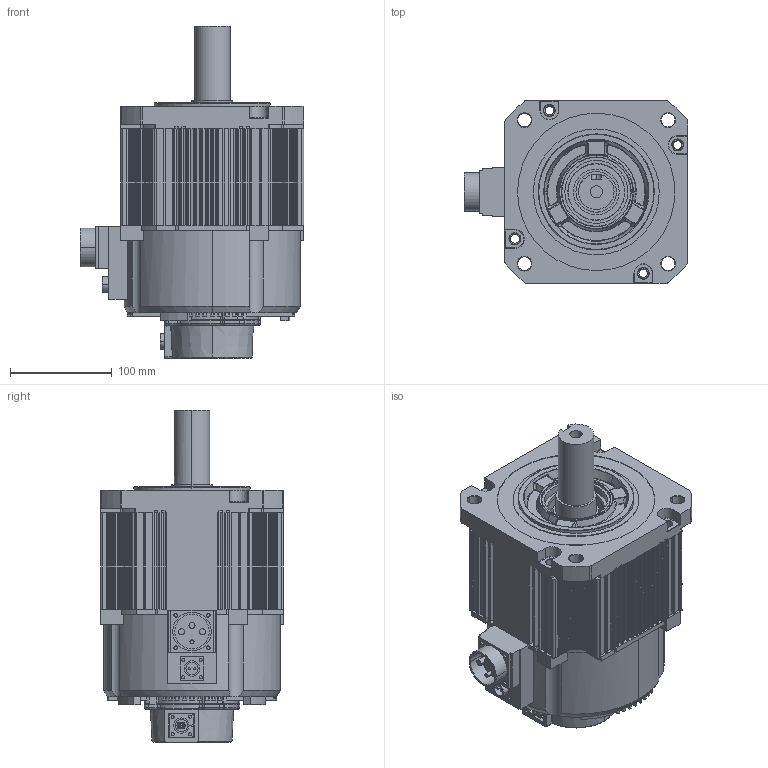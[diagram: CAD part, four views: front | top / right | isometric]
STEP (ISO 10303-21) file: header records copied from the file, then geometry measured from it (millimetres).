
FILE_DESCRIPTION(('CATIA V5 STEP Exchange'),'2;1');
FILE_NAME('F:\公司\180- 5对极\180A-18615\180A-18515HBZ\180A-18615HBZ.stp','2021-08-17T05:58:40+00:00',('none'),('none'),'CATIA Version 5 Release 20 GA (IN-10)','CATIA V5 STEP AP203','none');
FILE_SCHEMA(('CONFIG_CONTROL_DESIGN'));
Products named in the file (1): 180A-18615HBZ
Bounding box: 220 x 180 x 327 mm (x, y, z)
Volume: 2684320.4 mm3; surface area: 704031 mm2
Topology: 3 solids, 3 shells, 2663 faces, 6809 edges, 4247 vertices
Faces by surface type: cylinder 1159, plane 957, torus 279, bspline 162, sphere 74, cone 32
Entity records: 82477 total; most frequent: CARTESIAN_POINT 23414, ORIENTED_EDGE 13520, DIRECTION 9624, EDGE_CURVE 6760, AXIS2_PLACEMENT_3D 4783, VERTEX_POINT 4247, VECTOR 3124, LINE 3124
